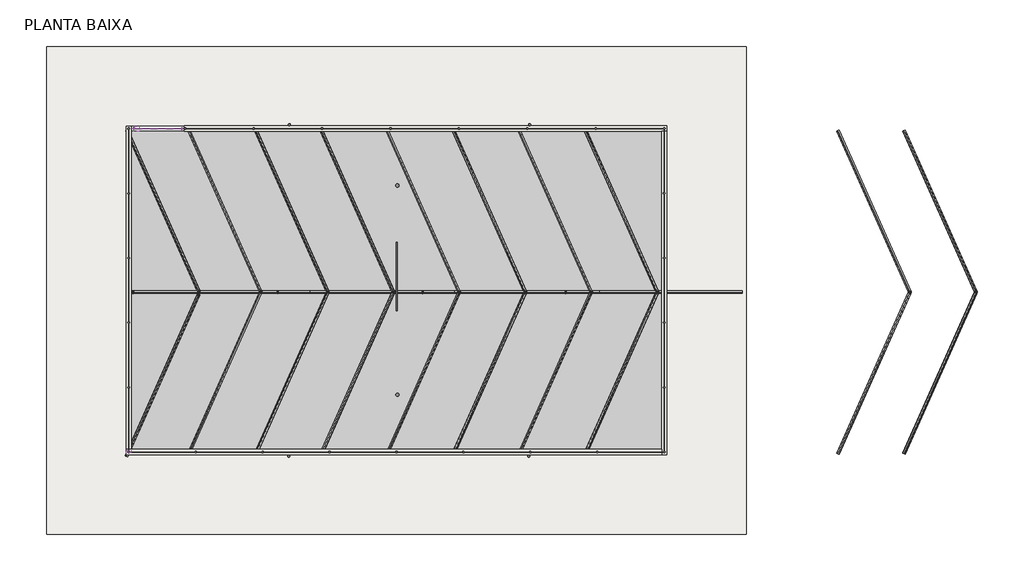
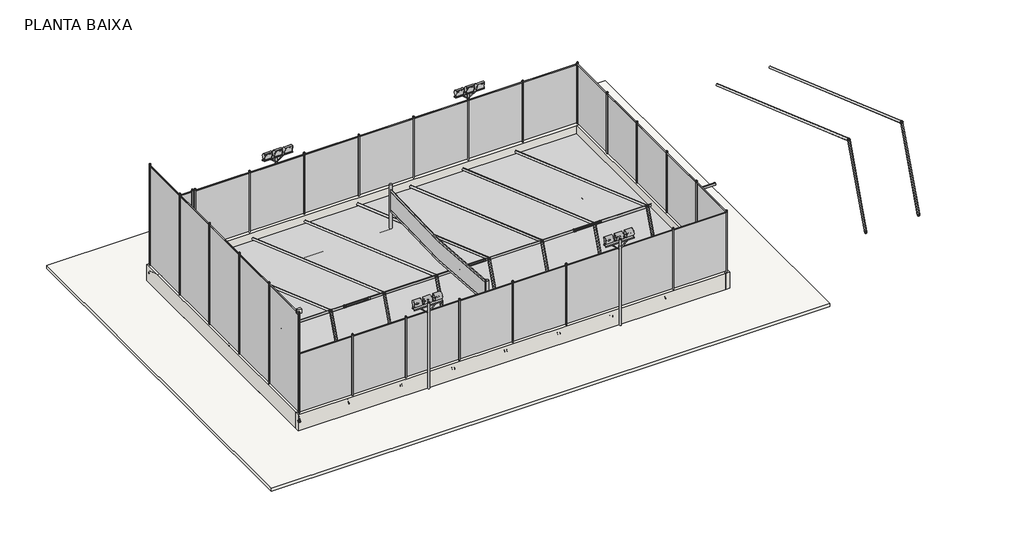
# One storey: 24 pipe fittings, 6 geographic elements, 6 walls, 4 light fixtures, 2 furniture elements, 1 slab.
"""IFC4 building model written with IfcOpenShell, lengths in millimetres."""

from ifc_helpers import new_model, si_unit, frame, origin, origin_with_axes, place, context, project, spatial, polyline, outline, extrude, faceted_brep, transform, mapped, element, save
from components import furniture_4d10064f, furniture_45f6a091, cl_fence_b50189db, cl_fence_4927e294, cl_fence_b906ae02, cl_fence_86baf1ea, cl_fence_2019edca, cl_fence_7b1856d6, light_fixture_2ec7923f, pipe_fitting_100mm_6m_63907a32, pipe_fitting_100mm_6m_a1bf2bc9

model = new_model("IFC4")

# Units and contexts
model_context = context("Model", 3, world=origin())
ifc_project = project(units=[si_unit("LENGTHUNIT", "METRE", prefix="MILLI")], contexts=[model_context])

# Site, building, storey
site = spatial("IfcSite", under=ifc_project)
building = spatial("IfcBuilding", under=site)
storey = spatial("IfcBuildingStorey", under=building, Name="PLANTA BAIXA", Elevation=0.0)

# Furniture
placement = place(None, origin())
furniture_shape = furniture_4d10064f(model_context)
element("IfcFurniture", 1, ObjectType="Futebol de areia : Futebol de areia", at=placement, inside=storey, context=model_context, shape_type="MappedRepresentation", body=[
    mapped(furniture_shape, transform((36103.3957716, -115424.2219847, 0.0), x_axis=(1.0, 0.0, 0.0), y_axis=(0.0, 1.0, 0.0), z_axis=(0.0, 0.0, 1.0))),
])
furniture_2_shape = furniture_45f6a091(model_context)
element("IfcFurniture", 2, ObjectType="Volei de Praia : Volei de Praia", at=placement, inside=storey, context=model_context, shape_type="MappedRepresentation", body=[
    mapped(furniture_2_shape, transform((-21966.2396164, -7247.2827338, 0.0), x_axis=(1.0, 0.0, 0.0), y_axis=(0.0, 1.0, 0.0), z_axis=(0.0, 0.0, 1.0))),
])

# Geographic elements
cl_fence_shape = cl_fence_b50189db(model_context)
element("IfcGeographicElement", 3, ObjectType="Alambrado : CL Fence", at=placement, inside=storey, context=model_context, shape_type="MappedRepresentation", body=[
    mapped(cl_fence_shape, transform((-22110.1307082, -4586.0220556, 5.0), x_axis=(-1.0, 0.0, 0.0), y_axis=(0.0, -1.0, 0.0), z_axis=(0.0, 0.0, 1.0))),
])
cl_fence_2_shape = cl_fence_4927e294(model_context)
element("IfcGeographicElement", 4, ObjectType="Alambrado : CL Fence", at=placement, inside=storey, context=model_context, shape_type="MappedRepresentation", body=[
    mapped(cl_fence_2_shape, transform((-24114.8468073, -4591.4961087, 800.0), x_axis=(0.0, -1.0, 0.0), y_axis=(1.0, 0.0, 0.0), z_axis=(0.0, 0.0, 1.0))),
])
cl_fence_3_shape = cl_fence_b906ae02(model_context)
element("IfcGeographicElement", 5, ObjectType="Alambrado : CL Fence", at=placement, inside=storey, context=model_context, shape_type="MappedRepresentation", body=[
    mapped(cl_fence_3_shape, transform((-21987.1653678, -4586.0220556, 800.0), x_axis=(1.0, 0.0, 0.0), y_axis=(0.0, 1.0, 0.0), z_axis=(0.0, 0.0, 1.0))),
])
cl_fence_4_shape = cl_fence_86baf1ea(model_context)
element("IfcGeographicElement", 6, ObjectType="Alambrado : CL Fence", at=placement, inside=storey, context=model_context, shape_type="MappedRepresentation", body=[
    mapped(cl_fence_4_shape, transform((-3910.8246881, -16791.4961087, 800.0), x_axis=(-1.0, 0.0, 0.0), y_axis=(0.0, -1.0, 0.0), z_axis=(0.0, 0.0, 1.0))),
])
cl_fence_5_shape = cl_fence_2019edca(model_context)
element("IfcGeographicElement", 7, ObjectType="Alambrado : CL Fence", at=placement, inside=storey, context=model_context, shape_type="MappedRepresentation", body=[
    mapped(cl_fence_5_shape, transform((-3910.8246881, -16791.4961087, 800.0), x_axis=(0.0, 1.0, 0.0), y_axis=(-1.0, 0.0, 0.0), z_axis=(0.0, 0.0, 1.0))),
])
cl_fence_6_shape = cl_fence_7b1856d6(model_context)
element("IfcGeographicElement", 8, ObjectType="Alambrado : CL Fence", at=placement, inside=storey, context=model_context, shape_type="MappedRepresentation", body=[
    mapped(cl_fence_6_shape, transform((-22110.1307082, -4586.0220556, 2712.5193425), x_axis=(-1.0, 0.0, 0.0), y_axis=(0.0, -1.0, 0.0), z_axis=(0.0, 0.0, 1.0))),
])

# Light fixtures
light_fixture_shape = light_fixture_2ec7923f(model_context)
element("IfcLightFixture", 9, ObjectType="Suporte para 3 Refletores : Suporte para 3 Refletores", at=placement, inside=storey, context=model_context, shape_type="MappedRepresentation", body=[
    mapped(light_fixture_shape, transform((-10119.9774647, -4400.6810718, 3000.0), x_axis=(1.0, 0.0, 0.0), y_axis=(0.0, 1.0, 0.0), z_axis=(0.0, 0.0, 1.0))),
])
element("IfcLightFixture", 10, ObjectType="Suporte para 3 Refletores : Suporte para 3 Refletores", at=placement, inside=storey, context=model_context, shape_type="MappedRepresentation", body=[
    mapped(light_fixture_shape, transform((-19186.61338, -4396.4961087, 3000.0), x_axis=(1.0, 0.0, 0.0), y_axis=(0.0, 1.0, 0.0), z_axis=(0.0, 0.0, 1.0))),
])
element("IfcLightFixture", 11, ObjectType="Suporte para 3 Refletores : Suporte para 3 Refletores", at=placement, inside=storey, context=model_context, shape_type="MappedRepresentation", body=[
    mapped(light_fixture_shape, transform((-7890.0238809, -16984.4311138, 3000.0), x_axis=(-1.0, 0.0, 0.0), y_axis=(0.0, -1.0, 0.0), z_axis=(0.0, 0.0, 1.0))),
])
element("IfcLightFixture", 12, ObjectType="Suporte para 3 Refletores : Suporte para 3 Refletores", at=placement, inside=storey, context=model_context, shape_type="MappedRepresentation", body=[
    mapped(light_fixture_shape, transform((-16944.0029567, -16984.4311138, 3000.0), x_axis=(-1.0, 0.0, 0.0), y_axis=(0.0, -1.0, 0.0), z_axis=(0.0, 0.0, 1.0))),
])

# Pipe fittings
pipe_fitting_100mm_6m_shape = pipe_fitting_100mm_6m_63907a32(model_context)
element("IfcPipeFitting", 13, ObjectType="Krona Esgoto Tubo Esg. 100mm - 6M_0103 : 100mm - 6M", at=placement, inside=storey, context=model_context, shape_type="MappedRepresentation", body=[
    mapped(pipe_fitting_100mm_6m_shape, transform((-23973.8505459, -10756.4620209, 500.0), x_axis=(1.0, 0.0, 0.0), y_axis=(0.0, 1.0, 0.0), z_axis=(0.0, 0.0, 1.0))),
])
element("IfcPipeFitting", 14, ObjectType="Krona Esgoto Tubo Esg. 100mm - 6M_0103 : 100mm - 6M", at=placement, inside=storey, context=model_context, shape_type="MappedRepresentation", body=[
    mapped(pipe_fitting_100mm_6m_shape, transform((-18510.0735871, -10756.4620209, 500.0), x_axis=(1.0, 0.0, 0.0), y_axis=(0.0, 1.0, 0.0), z_axis=(0.0, 0.0, 1.0))),
])
element("IfcPipeFitting", 15, ObjectType="Krona Esgoto Tubo Esg. 100mm - 6M_0103 : 100mm - 6M", at=placement, inside=storey, context=model_context, shape_type="MappedRepresentation", body=[
    mapped(pipe_fitting_100mm_6m_shape, transform((-13046.2966283, -10756.4620209, 500.0), x_axis=(1.0, 0.0, 0.0), y_axis=(0.0, 1.0, 0.0), z_axis=(0.0, 0.0, 1.0))),
])
element("IfcPipeFitting", 16, ObjectType="Krona Esgoto Tubo Esg. 100mm - 6M_0103 : 100mm - 6M", at=placement, inside=storey, context=model_context, shape_type="MappedRepresentation", body=[
    mapped(pipe_fitting_100mm_6m_shape, transform((-21476.7982497, -10848.2081424, 500.0), x_axis=(-0.4067366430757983, -0.9135454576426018, 0.0), y_axis=(0.9135454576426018, -0.4067366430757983, 0.0), z_axis=(0.0, 0.0, 1.0))),
])
element("IfcPipeFitting", 17, ObjectType="Krona Esgoto Tubo Esg. 100mm - 6M_0103 : 100mm - 6M", at=placement, inside=storey, context=model_context, shape_type="MappedRepresentation", body=[
    mapped(pipe_fitting_100mm_6m_shape, transform((-19130.875644, -10757.1277274, 500.0), x_axis=(-0.4067366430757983, -0.9135454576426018, 0.0), y_axis=(0.9135454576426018, -0.4067366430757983, 0.0), z_axis=(0.0, 0.0, 1.0))),
])
element("IfcPipeFitting", 18, ObjectType="Krona Esgoto Tubo Esg. 100mm - 6M_0103 : 100mm - 6M", at=placement, inside=storey, context=model_context, shape_type="MappedRepresentation", body=[
    mapped(pipe_fitting_100mm_6m_shape, transform((-16595.9275101, -10736.2637181, 500.0), x_axis=(-0.4067366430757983, -0.9135454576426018, 0.0), y_axis=(0.9135454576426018, -0.4067366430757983, 0.0), z_axis=(0.0, 0.0, 1.0))),
])
element("IfcPipeFitting", 19, ObjectType="Krona Esgoto Tubo Esg. 100mm - 6M_0103 : 100mm - 6M", at=placement, inside=storey, context=model_context, shape_type="MappedRepresentation", body=[
    mapped(pipe_fitting_100mm_6m_shape, transform((-14126.9983384, -10740.9937518, 500.0), x_axis=(-0.4067366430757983, -0.9135454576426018, 0.0), y_axis=(0.9135454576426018, -0.4067366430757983, 0.0), z_axis=(0.0, 0.0, 1.0))),
])
element("IfcPipeFitting", 20, ObjectType="Krona Esgoto Tubo Esg. 100mm - 6M_0103 : 100mm - 6M", at=placement, inside=storey, context=model_context, shape_type="MappedRepresentation", body=[
    mapped(pipe_fitting_100mm_6m_shape, transform((-11642.3048885, -10741.6594583, 500.0), x_axis=(-0.4067366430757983, -0.9135454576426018, 0.0), y_axis=(0.9135454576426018, -0.4067366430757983, 0.0), z_axis=(0.0, 0.0, 1.0))),
])
element("IfcPipeFitting", 21, ObjectType="Krona Esgoto Tubo Esg. 100mm - 6M_0103 : 100mm - 6M", at=placement, inside=storey, context=model_context, shape_type="MappedRepresentation", body=[
    mapped(pipe_fitting_100mm_6m_shape, transform((-9142.0084969, -10740.9937518, 500.0), x_axis=(-0.4067366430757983, -0.9135454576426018, 0.0), y_axis=(0.9135454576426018, -0.4067366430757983, 0.0), z_axis=(0.0, 0.0, 1.0))),
])
element("IfcPipeFitting", 22, ObjectType="Krona Esgoto Tubo Esg. 100mm - 6M_0103 : 100mm - 6M", at=placement, inside=storey, context=model_context, shape_type="MappedRepresentation", body=[
    mapped(pipe_fitting_100mm_6m_shape, transform((-7646.2966283, -10756.4620209, 500.0), x_axis=(1.0, 0.0, 0.0), y_axis=(0.0, 1.0, 0.0), z_axis=(0.0, 0.0, 1.0))),
])
element("IfcPipeFitting", 23, ObjectType="Krona Esgoto Tubo Esg. 100mm - 6M_0103 : 100mm - 6M", at=placement, inside=storey, context=model_context, shape_type="MappedRepresentation", body=[
    mapped(pipe_fitting_100mm_6m_shape, transform((-6662.3048885, -10741.6594583, 500.0), x_axis=(-0.4067366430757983, -0.9135454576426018, 0.0), y_axis=(0.9135454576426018, -0.4067366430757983, 0.0), z_axis=(0.0, 0.0, 1.0))),
])
element("IfcPipeFitting", 24, ObjectType="Krona Esgoto Tubo Esg. 100mm - 6M_0103 : 100mm - 6M", at=placement, inside=storey, context=model_context, shape_type="MappedRepresentation", body=[
    mapped(pipe_fitting_100mm_6m_shape, transform((-4162.0084969, -10740.9937518, 500.0), x_axis=(-0.4067366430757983, -0.9135454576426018, 0.0), y_axis=(0.9135454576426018, -0.4067366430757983, 0.0), z_axis=(0.0, 0.0, 1.0))),
])
element("IfcPipeFitting", 25, ObjectType="Krona Esgoto Tubo Esg. 100mm - 6M_0103 : 100mm - 6M", at=placement, inside=storey, context=model_context, shape_type="MappedRepresentation", body=[
    mapped(pipe_fitting_100mm_6m_shape, transform((5357.6951115, -10741.6594583, 500.0), x_axis=(-0.4067366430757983, -0.9135454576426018, 0.0), y_axis=(0.9135454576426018, -0.4067366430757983, 0.0), z_axis=(0.0, 0.0, 1.0))),
])
element("IfcPipeFitting", 26, ObjectType="Krona Esgoto Tubo Esg. 100mm - 6M_0103 : 100mm - 6M", at=placement, inside=storey, context=model_context, shape_type="MappedRepresentation", body=[
    mapped(pipe_fitting_100mm_6m_shape, transform((7857.9915031, -10740.9937518, 500.0), x_axis=(-0.4067366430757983, -0.9135454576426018, 0.0), y_axis=(0.9135454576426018, -0.4067366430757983, 0.0), z_axis=(0.0, 0.0, 1.0))),
])
pipe_fitting_100mm_6m_2_shape = pipe_fitting_100mm_6m_a1bf2bc9(model_context)
element("IfcPipeFitting", 27, ObjectType="Krona Esgoto Tubo Esg. 100mm - 6M_0103 : 100mm - 6M", at=placement, inside=storey, context=model_context, shape_type="MappedRepresentation", body=[
    mapped(pipe_fitting_100mm_6m_2_shape, transform((-21462.9509556, -10755.7963144, 500.0), x_axis=(-0.4067366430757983, 0.9135454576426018, 0.0), y_axis=(-0.9135454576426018, -0.4067366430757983, 0.0), z_axis=(0.0, 0.0, 1.0))),
])
element("IfcPipeFitting", 28, ObjectType="Krona Esgoto Tubo Esg. 100mm - 6M_0103 : 100mm - 6M", at=placement, inside=storey, context=model_context, shape_type="MappedRepresentation", body=[
    mapped(pipe_fitting_100mm_6m_2_shape, transform((-19131.1720356, -10755.1306079, 500.0), x_axis=(-0.4067366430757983, 0.9135454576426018, 0.0), y_axis=(-0.9135454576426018, -0.4067366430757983, 0.0), z_axis=(0.0, 0.0, 1.0))),
])
element("IfcPipeFitting", 29, ObjectType="Krona Esgoto Tubo Esg. 100mm - 6M_0103 : 100mm - 6M", at=placement, inside=storey, context=model_context, shape_type="MappedRepresentation", body=[
    mapped(pipe_fitting_100mm_6m_2_shape, transform((-16596.2239018, -10775.9946172, 500.0), x_axis=(-0.4067366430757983, 0.9135454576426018, 0.0), y_axis=(-0.9135454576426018, -0.4067366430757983, 0.0), z_axis=(0.0, 0.0, 1.0))),
])
element("IfcPipeFitting", 30, ObjectType="Krona Esgoto Tubo Esg. 100mm - 6M_0103 : 100mm - 6M", at=placement, inside=storey, context=model_context, shape_type="MappedRepresentation", body=[
    mapped(pipe_fitting_100mm_6m_2_shape, transform((-14127.2947301, -10771.2645835, 500.0), x_axis=(-0.4067366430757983, 0.9135454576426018, 0.0), y_axis=(-0.9135454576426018, -0.4067366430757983, 0.0), z_axis=(0.0, 0.0, 1.0))),
])
element("IfcPipeFitting", 31, ObjectType="Krona Esgoto Tubo Esg. 100mm - 6M_0103 : 100mm - 6M", at=placement, inside=storey, context=model_context, shape_type="MappedRepresentation", body=[
    mapped(pipe_fitting_100mm_6m_2_shape, transform((-11642.6012802, -10770.598877, 500.0), x_axis=(-0.4067366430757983, 0.9135454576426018, 0.0), y_axis=(-0.9135454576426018, -0.4067366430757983, 0.0), z_axis=(0.0, 0.0, 1.0))),
])
element("IfcPipeFitting", 32, ObjectType="Krona Esgoto Tubo Esg. 100mm - 6M_0103 : 100mm - 6M", at=placement, inside=storey, context=model_context, shape_type="MappedRepresentation", body=[
    mapped(pipe_fitting_100mm_6m_2_shape, transform((-9142.3048885, -10771.2645835, 500.0), x_axis=(-0.4067366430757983, 0.9135454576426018, 0.0), y_axis=(-0.9135454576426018, -0.4067366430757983, 0.0), z_axis=(0.0, 0.0, 1.0))),
])
element("IfcPipeFitting", 33, ObjectType="Krona Esgoto Tubo Esg. 100mm - 6M_0103 : 100mm - 6M", at=placement, inside=storey, context=model_context, shape_type="MappedRepresentation", body=[
    mapped(pipe_fitting_100mm_6m_2_shape, transform((-6662.6012802, -10770.598877, 500.0), x_axis=(-0.4067366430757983, 0.9135454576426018, 0.0), y_axis=(-0.9135454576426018, -0.4067366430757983, 0.0), z_axis=(0.0, 0.0, 1.0))),
])
element("IfcPipeFitting", 34, ObjectType="Krona Esgoto Tubo Esg. 100mm - 6M_0103 : 100mm - 6M", at=placement, inside=storey, context=model_context, shape_type="MappedRepresentation", body=[
    mapped(pipe_fitting_100mm_6m_2_shape, transform((-4162.3048885, -10771.2645835, 500.0), x_axis=(-0.4067366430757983, 0.9135454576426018, 0.0), y_axis=(-0.9135454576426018, -0.4067366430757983, 0.0), z_axis=(0.0, 0.0, 1.0))),
])
element("IfcPipeFitting", 35, ObjectType="Krona Esgoto Tubo Esg. 100mm - 6M_0103 : 100mm - 6M", at=placement, inside=storey, context=model_context, shape_type="MappedRepresentation", body=[
    mapped(pipe_fitting_100mm_6m_2_shape, transform((5357.3987198, -10770.598877, 500.0), x_axis=(-0.4067366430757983, 0.9135454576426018, 0.0), y_axis=(-0.9135454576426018, -0.4067366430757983, 0.0), z_axis=(0.0, 0.0, 1.0))),
])
element("IfcPipeFitting", 36, ObjectType="Krona Esgoto Tubo Esg. 100mm - 6M_0103 : 100mm - 6M", at=placement, inside=storey, context=model_context, shape_type="MappedRepresentation", body=[
    mapped(pipe_fitting_100mm_6m_2_shape, transform((7857.6951115, -10771.2645835, 500.0), x_axis=(-0.4067366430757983, 0.9135454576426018, 0.0), y_axis=(-0.9135454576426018, -0.4067366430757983, 0.0), z_axis=(0.0, 0.0, 1.0))),
])

# Slab
element("IfcSlab", 37, ObjectType="Genérico 150 mm", at=placement, inside=storey, context=model_context, shape_type="SweptSolid", body=[
    extrude(outline(polyline([(-810.8246881, -1491.4961087), (-810.8246881, -19891.4961087), (-27214.8468073, -19891.4961087), (-27214.8468073, -1491.4961087), (-810.8246881, -1491.4961087)]), holes=[polyline([(-3810.8246881, -4491.4961087), (-24214.8468073, -4491.4961087), (-24214.8468073, -16891.4961087), (-3810.8246881, -16891.4961087), (-3810.8246881, -4491.4961087)])]), frame((0.0, 0.0, -150.0), z_axis=(0.0, 0.0, 1.0), x_axis=(1.0, 0.0, 0.0)), (0.0, 0.0, 1.0), 150.0),
])

# Walls
element("IfcWall", 38, ObjectType="Genérico - 200 mm", at=placement, inside=storey, context=model_context, shape_type="Brep", body=[
    faceted_brep([(-22013.9480146, -4686.0220556, 0.0), (-4010.8246881, -4686.0220556, 0.0), (-3810.8246881, -4686.0220556, 0.0), (-3810.8246881, -4686.0220556, 800.0), (-4010.8246881, -4686.0220556, 800.0), (-22013.9480146, -4686.0220556, 800.0), (-22013.9480146, -4486.0220556, 0.0), (-22013.9480146, -4486.0220556, 800.0), (-3810.8246881, -4486.0220556, 800.0), (-3810.8246881, -4486.0220556, 0.0)], [[[0, 1, 2, 3, 4, 5]], [[6, 7, 8, 9]], [[2, 1, 0, 6, 9]], [[5, 4, 3, 8, 7]], [[0, 5, 7, 6]], [[3, 2, 9, 8]]]),
])
element("IfcWall", 39, ObjectType="Genérico - 200 mm", at=placement, inside=storey, context=model_context, shape_type="Brep", body=[
    faceted_brep([(-4010.8246881, -4686.0220556, 0.0), (-4010.8246881, -16691.4961087, 0.0), (-4010.8246881, -16891.4961087, 0.0), (-4010.8246881, -16891.4961087, 800.0), (-4010.8246881, -16691.4961087, 800.0), (-4010.8246881, -4686.0220556, 800.0), (-3810.8246881, -4686.0220556, 0.0), (-3810.8246881, -4686.0220556, 800.0), (-3810.8246881, -16891.4961087, 800.0), (-3810.8246881, -16891.4961087, 0.0)], [[[0, 1, 2, 3, 4, 5]], [[6, 7, 8, 9]], [[2, 1, 0, 6, 9]], [[5, 4, 3, 8, 7]], [[3, 2, 9, 8]], [[0, 5, 7, 6]]]),
])
element("IfcWall", 40, ObjectType="Genérico - 200 mm", at=placement, inside=storey, context=model_context, shape_type="Brep", body=[
    faceted_brep([(-4010.8246881, -16691.4961087, 0.0), (-24014.8468073, -16691.4961087, 0.0), (-24214.8468073, -16691.4961087, 0.0), (-24214.8468073, -16691.4961087, 800.0), (-24014.8468073, -16691.4961087, 800.0), (-4010.8246881, -16691.4961087, 800.0), (-4010.8246881, -16891.4961087, 0.0), (-4010.8246881, -16891.4961087, 800.0), (-24214.8468073, -16891.4961087, 800.0), (-24214.8468073, -16891.4961087, 0.0)], [[[0, 1, 2, 3, 4, 5]], [[6, 7, 8, 9]], [[2, 1, 0, 6, 9]], [[5, 4, 3, 8, 7]], [[3, 2, 9, 8]], [[0, 5, 7, 6]]]),
])
element("IfcWall", 41, ObjectType="Genérico - 200 mm", at=placement, inside=storey, context=model_context, shape_type="SweptSolid", body=[
    extrude(outline(polyline([(-24014.8468073, -4491.4961087), (-24014.8468073, -16691.4961087), (-24214.8468073, -16691.4961087), (-24214.8468073, -4491.4961087), (-24014.8468073, -4491.4961087)])), origin_with_axes(), (0.0, 0.0, 1.0), 800.0),
])
element("IfcWall", 42, ObjectType="Genérico - 200 mm", at=placement, inside=storey, context=model_context, shape_type="SweptSolid", body=[
    extrude(outline(polyline([(-24014.8468073, -16723.2461087), (-24014.8468073, -16823.2461087), (-24214.8468073, -16823.2461087), (-24214.8468073, -16723.2461087), (-24014.8468073, -16723.2461087)])), frame((0.0, 0.0, 5800.0), z_axis=(0.0, 0.0, 1.0), x_axis=(1.0, 0.0, 0.0)), (0.0, 0.0, 1.0), 200.0),
])
element("IfcWall", 43, ObjectType="Genérico - 200 mm", at=placement, inside=storey, context=model_context, shape_type="SweptSolid", body=[
    extrude(outline(polyline([(-23920.1307082, -4691.4961087), (-23920.1307082, -4491.4961087), (-23720.1307082, -4491.4961087), (-23720.1307082, -4691.4961087), (-23920.1307082, -4691.4961087)])), frame((0.0, 0.0, 3824.1272932), z_axis=(0.0, 0.0, 1.0), x_axis=(1.0, 0.0, 0.0)), (0.0, 0.0, 1.0), 35.8727068),
])

save(model, "model.ifc")
